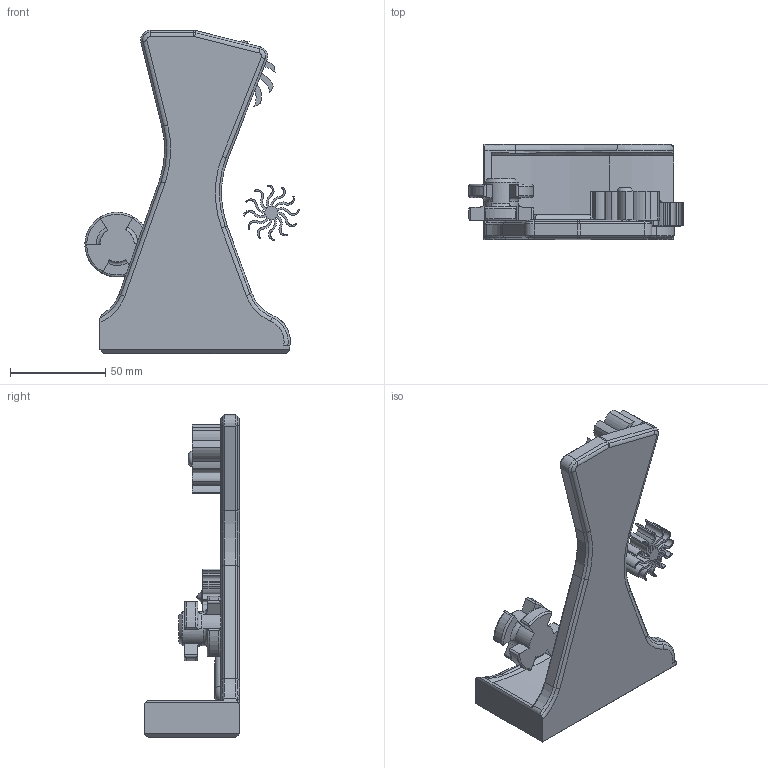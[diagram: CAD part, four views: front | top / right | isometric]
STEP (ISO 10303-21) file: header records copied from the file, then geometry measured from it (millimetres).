
FILE_DESCRIPTION(('STEP AP214'), '1');
FILE_NAME('ìåë_1', '', ('UNSPECIFIED'), ('UNSPECIFIED'), 'C3D Converter', 'C3D Toolkit', '');
FILE_SCHEMA(('AUTOMOTIVE_DESIGN { 1 0 10303 214 3 1 1}'));
Length unit declared in the file: millimetre
Bounding box: 112.73 x 50 x 170 mm (x, y, z)
Volume: 154116.5 mm3; surface area: 50782.5 mm2
Topology: 4 solids, 4 shells, 1729 faces, 4181 edges, 2278 vertices
Faces by surface type: plane 693, cylinder 629, sphere 240, extrusion 102, torus 43, cone 22
Full cylindrical faces by diameter (mm): 7 x1, 18 x1
Entity records: 51505 total; most frequent: CARTESIAN_POINT 12441, DIRECTION 8425, ORIENTED_EDGE 7866, EDGE_CURVE 3933, AXIS2_PLACEMENT_3D 3015, VECTOR 2395, LINE 2293, VERTEX_POINT 2278
